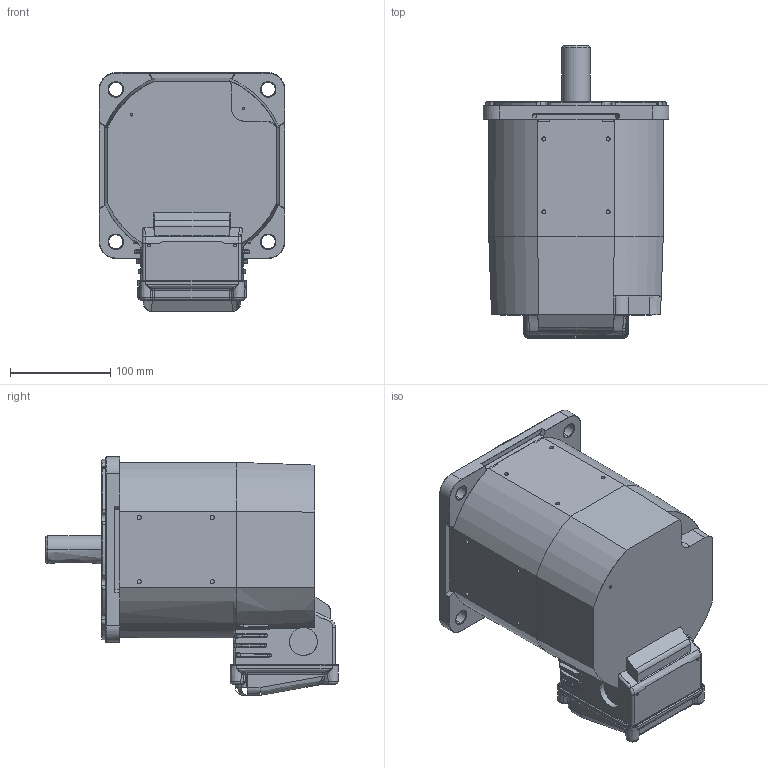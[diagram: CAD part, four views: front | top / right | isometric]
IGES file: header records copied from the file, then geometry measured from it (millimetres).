
Start section: SolidWorks IGES file using analytic representation for surfaces
Global section: file name: C:\TeknicPDM\AC Green\AC Green Customer Downloadable Files\CPM-_ _ _ _-D100_ _-_ _ _ _SIMPLIFIED.IGS; native system: SolidWorks 2020; preprocessor: SolidWorks 2020; author: ken_call; date: 230222.144947; units: inch
Bounding box: 185.5 x 292.33 x 238.18 mm (x, y, z)
Surface area: 266691.6 mm2 (no closed solid volume)
Topology: 0 solids, 0 shells, 1719 faces, 15788 edges, 15721 vertices
Faces by surface type: bspline 1118, revolution 601
